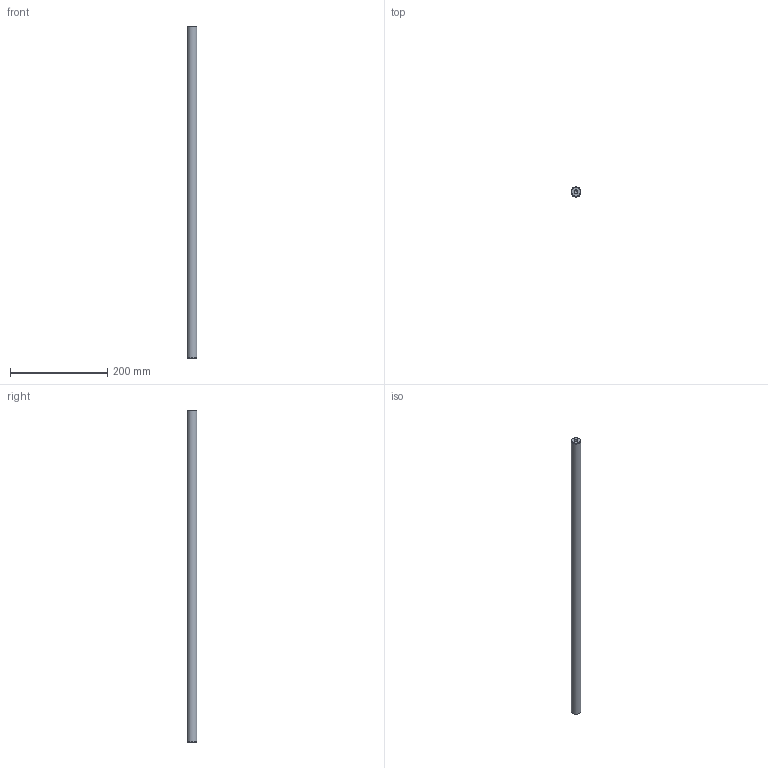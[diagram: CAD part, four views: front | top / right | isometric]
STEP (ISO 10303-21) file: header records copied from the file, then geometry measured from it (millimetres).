
FILE_DESCRIPTION( ( 'STEP AP214' ), '1' );
FILE_NAME( 'U:/Etudes/Top Solid/BIBLIO 3D AVM/STEP/PNEUMATIQUE/GUIDAGES/Accessoires/Colonnes/Ø20x682.step', '2005-05-04T12:49:49', ( ' ' ), ( ' ' ), 'XStep 1.0', ' ', ' ' );
FILE_SCHEMA( ( 'automotive_design' ) );
Length unit declared in the file: metre
Products named in the file (1): 1
Bounding box: 20 x 20 x 682 mm (x, y, z)
Volume: 212686.6 mm3; surface area: 44295.9 mm2
Topology: 1 solids, 1 shells, 13 faces, 27 edges, 16 vertices
Faces by surface type: cone 6, cylinder 5, plane 2
Full cylindrical faces by diameter (mm): 6.647 x4, 20 x1
Entity records: 382 total; most frequent: DIRECTION 52, CARTESIAN_POINT 40, AXIS2_PLACEMENT_3D 26, EDGE_LOOP 24, ORIENTED_EDGE 24, FACE_OUTER_BOUND 18, VERTEX_POINT 14, STYLED_ITEM 13
